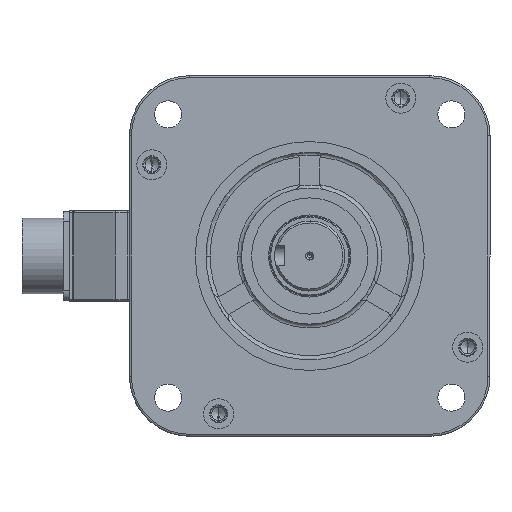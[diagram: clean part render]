
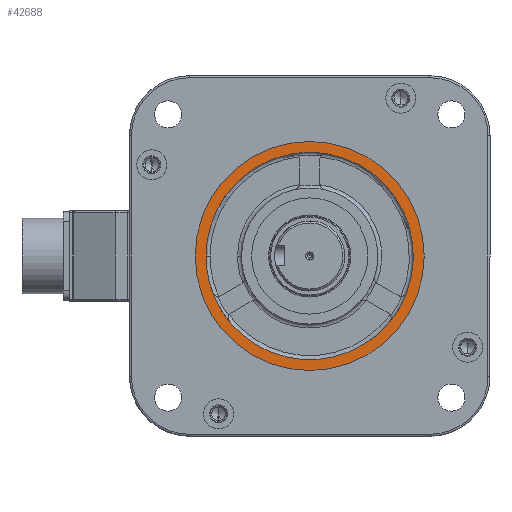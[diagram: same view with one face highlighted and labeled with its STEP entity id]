
A CAD part, left-side view. The second image highlights one B-rep face of the part: STEP entity #42688.
In plain terms, the highlighted planar face has unit normal (-1, 0, 0) as drawn and (0, 0, 1) by its records, which use the part's own axes.
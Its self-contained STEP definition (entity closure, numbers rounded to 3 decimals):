
#119 = ORIENTED_EDGE ( 'NONE', *, *, #3758, .T. ) ;
#185 = PLANE ( 'NONE',  #30723 ) ;
#2391 = CARTESIAN_POINT ( 'NONE',  ( -39.963, 32.879, 21. ) ) ;
#2562 = ORIENTED_EDGE ( 'NONE', *, *, #39893, .F. ) ;
#3546 = DIRECTION ( 'NONE',  ( 1., 0., 0. ) ) ;
#3758 = EDGE_CURVE ( 'NONE', #47820, #21213, #38439, .T. ) ;
#4485 = ORIENTED_EDGE ( 'NONE', *, *, #5244, .F. ) ;
#4701 = CIRCLE ( 'NONE', #53487, 51.75 ) ;
#5074 = DIRECTION ( 'NONE',  ( 1., 0., 0. ) ) ;
#5244 = EDGE_CURVE ( 'NONE', #54569, #43293, #52321, .T. ) ;
#5261 = DIRECTION ( 'NONE',  ( 0., 0., 1. ) ) ;
#5558 = CARTESIAN_POINT ( 'NONE',  ( 0., 0., 21. ) ) ;
#5956 = FACE_BOUND ( 'NONE', #30004, .T. ) ;
#6571 = DIRECTION ( 'NONE',  ( 0., 0., 1. ) ) ;
#6836 = CARTESIAN_POINT ( 'NONE',  ( 0., 0., 21. ) ) ;
#8630 = EDGE_CURVE ( 'NONE', #56244, #54566, #49166, .T. ) ;
#8706 = ORIENTED_EDGE ( 'NONE', *, *, #18225, .F. ) ;
#9321 = CIRCLE ( 'NONE', #43505, 51.75 ) ;
#9443 = VERTEX_POINT ( 'NONE', #57296 ) ;
#9653 = DIRECTION ( 'NONE',  ( 0., 0., 1. ) ) ;
#10024 = VERTEX_POINT ( 'NONE', #21125 ) ;
#10918 = CARTESIAN_POINT ( 'NONE',  ( 39.963, 32.879, 21. ) ) ;
#12168 = DIRECTION ( 'NONE',  ( 1., 0., 0. ) ) ;
#12837 = ORIENTED_EDGE ( 'NONE', *, *, #29317, .F. ) ;
#13785 = EDGE_CURVE ( 'NONE', #54566, #9443, #31615, .T. ) ;
#13976 = CARTESIAN_POINT ( 'NONE',  ( 0., 0., 21. ) ) ;
#14998 = AXIS2_PLACEMENT_3D ( 'NONE', #35429, #49480, #45825 ) ;
#15638 = DIRECTION ( 'NONE',  ( 1., 0., 0. ) ) ;
#18225 = EDGE_CURVE ( 'NONE', #23292, #54569, #41649, .T. ) ;
#18243 = DIRECTION ( 'NONE',  ( 0., 0., 1. ) ) ;
#18368 = CIRCLE ( 'NONE', #26195, 57.15 ) ;
#18528 = CARTESIAN_POINT ( 'NONE',  ( 57.15, 0., 21. ) ) ;
#19568 = DIRECTION ( 'NONE',  ( 1., 0., 0. ) ) ;
#20152 = CARTESIAN_POINT ( 'NONE',  ( 51.75, 0., 21. ) ) ;
#21125 = CARTESIAN_POINT ( 'NONE',  ( -8.492, -51.048, 21. ) ) ;
#21213 = VERTEX_POINT ( 'NONE', #58574 ) ;
#21622 = EDGE_CURVE ( 'NONE', #21213, #47820, #18368, .T. ) ;
#22121 = AXIS2_PLACEMENT_3D ( 'NONE', #5558, #5261, #57511 ) ;
#23017 = CARTESIAN_POINT ( 'NONE',  ( 8.492, -51.048, 21. ) ) ;
#23292 = VERTEX_POINT ( 'NONE', #23017 ) ;
#26195 = AXIS2_PLACEMENT_3D ( 'NONE', #6836, #58198, #54246 ) ;
#26891 = DIRECTION ( 'NONE',  ( 0., 0., 1. ) ) ;
#29317 = EDGE_CURVE ( 'NONE', #9443, #10024, #9321, .T. ) ;
#29637 = DIRECTION ( 'NONE',  ( 0., 0., 1. ) ) ;
#30004 = EDGE_LOOP ( 'NONE', ( #2562, #4485, #8706, #30444, #12837, #42472, #38115 ) ) ;
#30444 = ORIENTED_EDGE ( 'NONE', *, *, #46131, .F. ) ;
#30723 = AXIS2_PLACEMENT_3D ( 'NONE', #57032, #9653, #5074 ) ;
#31615 = CIRCLE ( 'NONE', #34521, 51.75 ) ;
#34521 = AXIS2_PLACEMENT_3D ( 'NONE', #38220, #29637, #19568 ) ;
#35429 = CARTESIAN_POINT ( 'NONE',  ( 0., 0., 21. ) ) ;
#36674 = CARTESIAN_POINT ( 'NONE',  ( 48.455, 18.17, 21. ) ) ;
#38115 = ORIENTED_EDGE ( 'NONE', *, *, #8630, .F. ) ;
#38220 = CARTESIAN_POINT ( 'NONE',  ( 0., 0., 21. ) ) ;
#38290 = CARTESIAN_POINT ( 'NONE',  ( 0., 0., 21. ) ) ;
#38439 = CIRCLE ( 'NONE', #14998, 57.15 ) ;
#38460 = AXIS2_PLACEMENT_3D ( 'NONE', #38290, #56320, #15638 ) ;
#39893 = EDGE_CURVE ( 'NONE', #43293, #56244, #42131, .T. ) ;
#41192 = DIRECTION ( 'NONE',  ( 1., 0., 0. ) ) ;
#41649 = CIRCLE ( 'NONE', #22121, 51.75 ) ;
#41712 = EDGE_LOOP ( 'NONE', ( #60231, #119 ) ) ;
#42131 = CIRCLE ( 'NONE', #56738, 51.75 ) ;
#42472 = ORIENTED_EDGE ( 'NONE', *, *, #13785, .F. ) ;
#42688 = ADVANCED_FACE ( 'NONE', ( #5956, #52753 ), #185, .T. ) ;
#43293 = VERTEX_POINT ( 'NONE', #36674 ) ;
#43505 = AXIS2_PLACEMENT_3D ( 'NONE', #57359, #6571, #53084 ) ;
#44529 = AXIS2_PLACEMENT_3D ( 'NONE', #58883, #50021, #3546 ) ;
#45825 = DIRECTION ( 'NONE',  ( 1., 0., 0. ) ) ;
#46131 = EDGE_CURVE ( 'NONE', #10024, #23292, #4701, .T. ) ;
#47820 = VERTEX_POINT ( 'NONE', #18528 ) ;
#49166 = CIRCLE ( 'NONE', #38460, 51.75 ) ;
#49480 = DIRECTION ( 'NONE',  ( 0., 0., 1. ) ) ;
#50021 = DIRECTION ( 'NONE',  ( 0., 0., 1. ) ) ;
#52321 = CIRCLE ( 'NONE', #44529, 51.75 ) ;
#52753 = FACE_OUTER_BOUND ( 'NONE', #41712, .T. ) ;
#53084 = DIRECTION ( 'NONE',  ( 1., 0., 0. ) ) ;
#53487 = AXIS2_PLACEMENT_3D ( 'NONE', #58634, #26891, #12168 ) ;
#54246 = DIRECTION ( 'NONE',  ( 1., 0., 0. ) ) ;
#54566 = VERTEX_POINT ( 'NONE', #2391 ) ;
#54569 = VERTEX_POINT ( 'NONE', #20152 ) ;
#56244 = VERTEX_POINT ( 'NONE', #10918 ) ;
#56320 = DIRECTION ( 'NONE',  ( 0., 0., 1. ) ) ;
#56738 = AXIS2_PLACEMENT_3D ( 'NONE', #13976, #18243, #41192 ) ;
#57032 = CARTESIAN_POINT ( 'NONE',  ( 0., 0., 21. ) ) ;
#57296 = CARTESIAN_POINT ( 'NONE',  ( -48.455, 18.17, 21. ) ) ;
#57359 = CARTESIAN_POINT ( 'NONE',  ( 0., 0., 21. ) ) ;
#57511 = DIRECTION ( 'NONE',  ( 1., 0., 0. ) ) ;
#58198 = DIRECTION ( 'NONE',  ( 0., 0., 1. ) ) ;
#58574 = CARTESIAN_POINT ( 'NONE',  ( -57.15, 0., 21. ) ) ;
#58634 = CARTESIAN_POINT ( 'NONE',  ( 0., 0., 21. ) ) ;
#58883 = CARTESIAN_POINT ( 'NONE',  ( 0., 0., 21. ) ) ;
#60231 = ORIENTED_EDGE ( 'NONE', *, *, #21622, .T. ) ;
